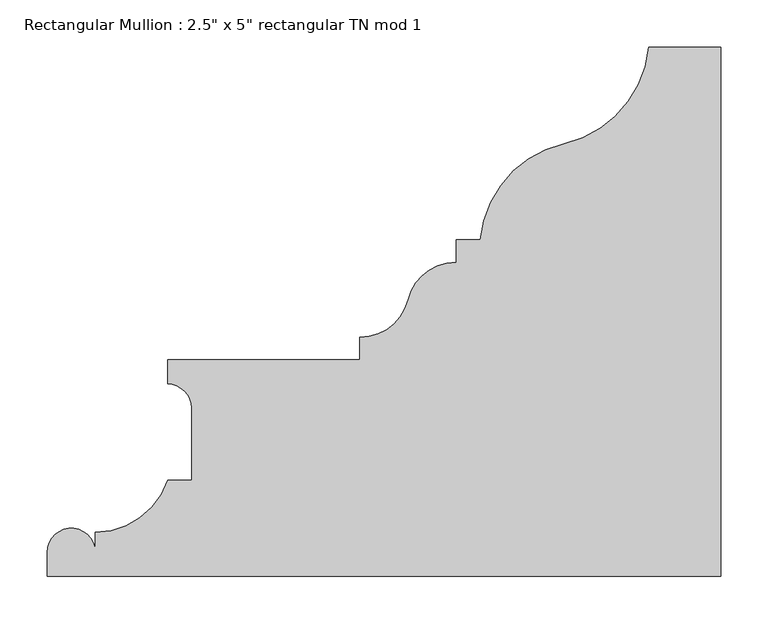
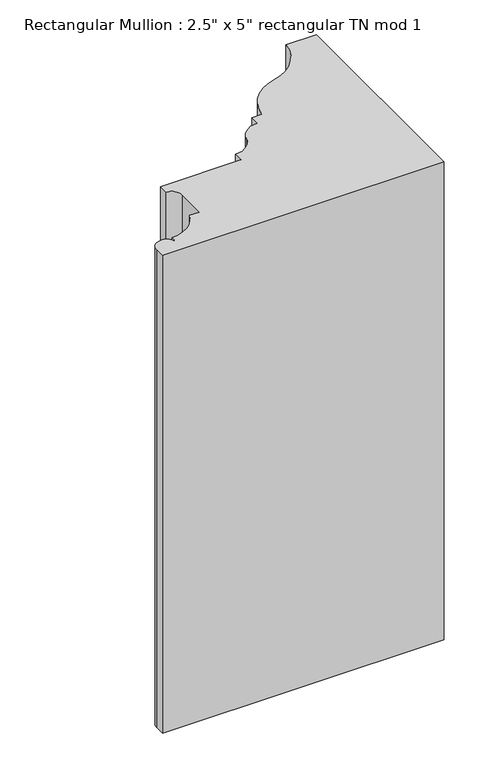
"""IFC4 building model written with IfcOpenShell, lengths in millimetres: member geometry."""

from ifc_helpers import new_model, si_unit, frame, origin, place, context, project, spatial, polyline, circle_curve, source, transform, mapped, element, save
from ifc_brep_helpers import plane_surface, cylinder_surface, revolved_surface, advanced_brep


def member_0ea97aff(model_context):
    return source(origin(), model_context, "Body", "AdvancedBrep", [
        advanced_brep(
        [(-584.2, 228.6, 0.0), (-584.2, 203.2, 0.0), (-558.8, 177.8, 0.0), (-558.8, 101.6, 0.0), (-584.2, 101.6, 0.0), (-660.4, 46.6781474, 0.0), (-660.4, 25.4, 0.0), (-711.2, 25.4, 0.0), (-711.2, 0.0, 0.0), (0.0, 0.0, 0.0), (0.0, 558.8, 0.0), (-76.2, 558.8, 0.0), (-165.1, 457.2, 0.0), (-254.0, 355.6, 0.0), (-279.4, 355.6, 0.0), (-279.4, 331.7634414, 0.0), (-330.2, 292.1, 0.0), (-381.0, 252.4365586, 0.0), (-381.0, 228.6, 0.0), (-584.2, 228.6, -1276.35), (-381.0, 228.6, -1276.35), (-381.0, 252.4365586, -1276.35), (-330.2, 292.1, -1276.35), (-279.4, 331.7634414, -1276.35), (-279.4, 355.6, -1276.35), (-254.0, 355.6, -1276.35), (-165.1, 457.2, -1276.35), (-76.2, 558.8, -1276.35), (0.0, 558.8, -1276.35), (0.0, 0.0, -1276.35), (-711.2, 0.0, -1276.35), (-711.2, 25.4, -1276.35), (-660.4, 25.4, -1276.35), (-660.4, 46.6781474, -1276.35), (-584.2, 101.6, -1276.35), (-558.8, 101.6, -1276.35), (-558.8, 177.8, -1276.35), (-584.2, 203.2, -1276.35)],
        [
            (0, 1),
            (1, 2, circle_curve(frame((-584.2, 177.8, 0.0), z_axis=(0.0, 0.0, -1.0), x_axis=(0.0, 1.0, 0.0)), 25.4)),
            (2, 3),
            (3, 4),
            (4, 5, circle_curve(frame((-660.4, 127.0, 0.0), z_axis=(0.0, 0.0, -1.0), x_axis=(0.0, 1.0, 0.0)), 80.3218526)),
            (5, 6),
            (6, 7, circle_curve(frame((-685.8, 25.4, 0.0), z_axis=(0.0, 0.0, 1.0), x_axis=(0.0, 1.0, 0.0)), 25.4)),
            (7, 8),
            (8, 9),
            (9, 10),
            (10, 11),
            (11, 12, circle_curve(frame((-190.5, 569.11875, 0.0), z_axis=(0.0, 0.0, -1.0), x_axis=(0.0, 1.0, 0.0)), 114.7648317)),
            (12, 13, circle_curve(frame((-139.7, 345.28125, 0.0), z_axis=(0.0, 0.0, 1.0), x_axis=(0.9911504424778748, 0.13274336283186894, 0.0)), 114.7648317)),
            (13, 14),
            (14, 15),
            (15, 16, circle_curve(frame((-279.4, 279.4, 0.0), z_axis=(0.0, 0.0, 1.0), x_axis=(0.0, 1.0, 0.0)), 52.3634414)),
            (16, 17, circle_curve(frame((-381.0, 304.8, 0.0), z_axis=(0.0, 0.0, -1.0), x_axis=(0.0, 1.0, 0.0)), 52.3634414)),
            (17, 18),
            (18, 0),
            (19, 20),
            (20, 21),
            (21, 22, circle_curve(frame((-381.0, 304.8, -1276.35), z_axis=(0.0, 0.0, 1.0), x_axis=(0.0, 1.0, 0.0)), 52.3634414)),
            (22, 23, circle_curve(frame((-279.4, 279.4, -1276.35), z_axis=(0.0, 0.0, -1.0), x_axis=(0.0, 1.0, 0.0)), 52.3634414)),
            (23, 24),
            (24, 25),
            (25, 26, circle_curve(frame((-139.7, 345.28125, -1276.35), z_axis=(0.0, 0.0, -1.0), x_axis=(0.9911504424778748, 0.13274336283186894, 0.0)), 114.7648317)),
            (26, 27, circle_curve(frame((-190.5, 569.11875, -1276.35), z_axis=(0.0, 0.0, 1.0), x_axis=(0.0, 1.0, 0.0)), 114.7648317)),
            (27, 28),
            (28, 29),
            (29, 30),
            (30, 31),
            (31, 32, circle_curve(frame((-685.8, 25.4, -1276.35), z_axis=(0.0, 0.0, -1.0), x_axis=(0.0, 1.0, 0.0)), 25.4)),
            (32, 33),
            (33, 34, circle_curve(frame((-660.4, 127.0, -1276.35), z_axis=(0.0, 0.0, 1.0), x_axis=(0.0, 1.0, 0.0)), 80.3218526)),
            (34, 35),
            (35, 36),
            (36, 37, circle_curve(frame((-584.2, 177.8, -1276.35), z_axis=(0.0, 0.0, 1.0), x_axis=(0.0, 1.0, 0.0)), 25.4)),
            (37, 19),
            (0, 19),
            (37, 1),
            (36, 2),
            (35, 3),
            (34, 4),
            (33, 5),
            (32, 6),
            (31, 7),
            (30, 8),
            (29, 9),
            (28, 10),
            (27, 11),
            (26, 12),
            (25, 13),
            (24, 14),
            (23, 15),
            (22, 16),
            (21, 17),
            (20, 18),
        ],
        [
            plane_surface(frame((0.0, -711.6534269, 0.0), z_axis=(0.0, 0.0, 1.0), x_axis=(-1.0, 0.0, 0.0))),
            plane_surface(frame((0.0, -711.6534269, -1276.35), z_axis=(0.0, 0.0, -1.0), x_axis=(-1.0, 0.0, 0.0))),
            plane_surface(frame((-584.2, 228.6, 0.0), z_axis=(-1.0, 0.0, 0.0), x_axis=(0.0, 0.0, -1.0))),
            revolved_surface(polyline([(-584.2, 203.20000000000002, -1276.35), (-584.2, 203.20000000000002, 0.0)]), (-584.2, 177.8, 0.0), (0.0, 0.0, -1.0)),
            plane_surface(frame((-558.8, 177.8, 0.0), z_axis=(-1.0, 0.0, 0.0), x_axis=(0.0, 0.0, -1.0))),
            plane_surface(frame((-558.8, 101.6, 0.0), z_axis=(0.0, 1.0, 0.0), x_axis=(0.0, 0.0, -1.0))),
            revolved_surface(polyline([(-660.4, 207.3218526, -1276.35), (-660.4, 207.3218526, 0.0)]), (-660.4, 127.0, 0.0), (0.0, 0.0, -1.0)),
            plane_surface(frame((-660.4, 46.6781474, 0.0), z_axis=(-1.0, 0.0, 0.0), x_axis=(0.0, 0.0, -1.0))),
            cylinder_surface(frame((-685.8, 25.4, 0.0), z_axis=(0.0, 0.0, 1.0), x_axis=(0.0, 1.0, 0.0)), 25.4),
            plane_surface(frame((-711.2, 25.4, 0.0), z_axis=(-1.0, 0.0, 0.0), x_axis=(0.0, 0.0, -1.0))),
            plane_surface(frame((-711.2, 0.0, 0.0), z_axis=(0.0, -1.0, 0.0), x_axis=(0.0, 0.0, -1.0))),
            plane_surface(frame((0.0, 0.0, 0.0), z_axis=(1.0, 0.0, 0.0), x_axis=(0.0, 0.0, -1.0))),
            plane_surface(frame((0.0, 558.8, 0.0), z_axis=(0.0, 1.0, 0.0), x_axis=(0.0, 0.0, -1.0))),
            revolved_surface(polyline([(-190.5, 683.8835816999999, -1276.35), (-190.5, 683.8835816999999, 0.0)]), (-190.5, 569.11875, 0.0), (0.0, 0.0, -1.0)),
            cylinder_surface(frame((-139.7, 345.28125, 0.0), z_axis=(0.0, 0.0, 1.0000000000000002), x_axis=(0.9911504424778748, 0.13274336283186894, 0.0)), 114.7648317),
            plane_surface(frame((-254.0, 355.6, 0.0), z_axis=(0.0, 1.0, 0.0), x_axis=(0.0, 0.0, -1.0))),
            plane_surface(frame((-279.4, 355.6, 0.0), z_axis=(-1.0, 0.0, 0.0), x_axis=(0.0, 0.0, -1.0))),
            cylinder_surface(frame((-279.4, 279.4, 0.0), z_axis=(0.0, 0.0, 1.0), x_axis=(0.0, 1.0, 0.0)), 52.3634414),
            revolved_surface(polyline([(-381.0, 357.1634414, -1276.35), (-381.0, 357.1634414, 0.0)]), (-381.0, 304.8, 0.0), (0.0, 0.0, -1.0)),
            plane_surface(frame((-381.0, 252.4365586, 0.0), z_axis=(-1.0, 0.0, 0.0), x_axis=(0.0, 0.0, -1.0))),
            plane_surface(frame((-381.0, 228.6, 0.0), z_axis=(0.0, 1.0, 0.0), x_axis=(0.0, 0.0, -1.0))),
        ],
        [
            (0, [[1, 2, 3, 4, 5, 6, 7, 8, 9, 10, 11, 12, 13, 14, 15, 16, 17, 18, 19]]),
            (1, [[20, 21, 22, 23, 24, 25, 26, 27, 28, 29, 30, 31, 32, 33, 34, 35, 36, 37, 38]]),
            (2, [[-1, 39, -38, 40]]),
            (3, [[-2, -40, -37, 41]]),
            (4, [[-3, -41, -36, 42]]),
            (5, [[-4, -42, -35, 43]]),
            (6, [[-5, -43, -34, 44]]),
            (7, [[-6, -44, -33, 45]]),
            (8, [[-7, -45, -32, 46]]),
            (9, [[-8, -46, -31, 47]]),
            (10, [[-9, -47, -30, 48]]),
            (11, [[-10, -48, -29, 49]]),
            (12, [[-11, -49, -28, 50]]),
            (13, [[-12, -50, -27, 51]]),
            (14, [[-13, -51, -26, 52]]),
            (15, [[-14, -52, -25, 53]]),
            (16, [[-15, -53, -24, 54]]),
            (17, [[-16, -54, -23, 55]]),
            (18, [[-17, -55, -22, 56]]),
            (19, [[-18, -56, -21, 57]]),
            (20, [[-19, -57, -20, -39]]),
        ],
    ),
    ])


if __name__ == "__main__":
    model = new_model("IFC4")
    model_context = context("Model", 3, world=origin())
    ifc_project = project(units=[si_unit("LENGTHUNIT", "METRE", prefix="MILLI")], contexts=[model_context])
    site = spatial("IfcSite", under=ifc_project)
    building = spatial("IfcBuilding", under=site)
    placement = place(None, origin())
    member_shape = member_0ea97aff(model_context)
    element("IfcMember", 1, ObjectType="Rectangular Mullion : 2.5\" x 5\" rectangular TN mod 1", at=placement, inside=building, context=model_context, shape_type="MappedRepresentation", body=[
        mapped(member_shape, transform((0.0, 0.0, 0.0), x_axis=(1.0, 0.0, 0.0), y_axis=(0.0, 1.0, 0.0), z_axis=(0.0, 0.0, 1.0))),
    ])
    save(model, "model.ifc")
